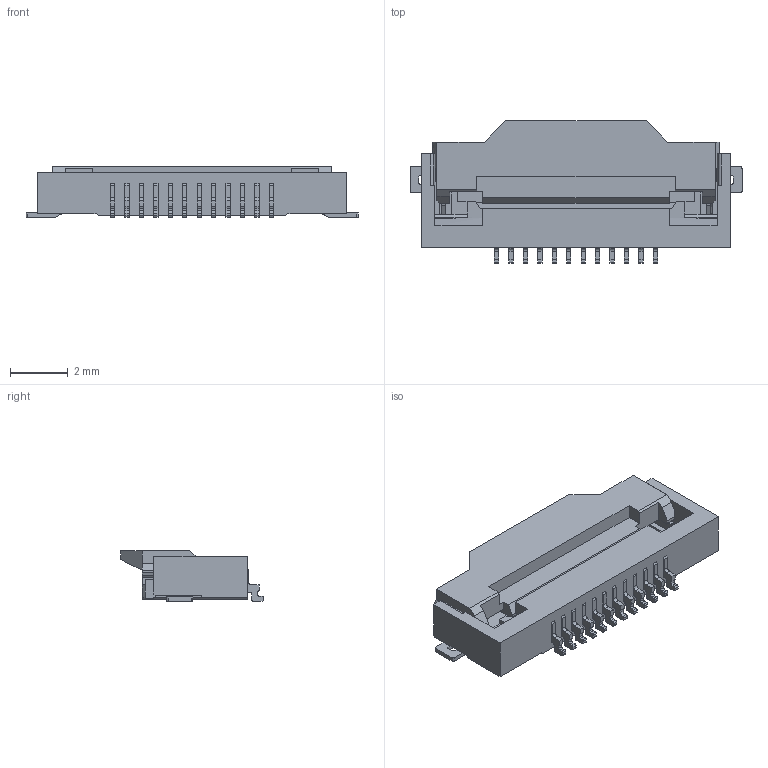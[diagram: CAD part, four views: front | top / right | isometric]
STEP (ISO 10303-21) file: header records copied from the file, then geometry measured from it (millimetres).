
FILE_DESCRIPTION (( 'STEP AP214' ), '1' );
FILE_NAME ('006806012108_607.STEP', '2023-05-18T07:23:22', ( '' ), ( '' ), 'SwSTEP 2.0', 'SolidWorks 2021', '' );
FILE_SCHEMA (( 'AUTOMOTIVE_DESIGN' ));
Length unit declared in the file: millimetre
Products named in the file (1): 006806012108_607
Bounding box: 11.5 x 4.95 x 1.75 mm (x, y, z)
Volume: 48.3 mm3; surface area: 225.1 mm2
Topology: 1 solids, 1 shells, 445 faces, 1297 edges, 856 vertices
Faces by surface type: bspline 445
Entity records: 14136 total; most frequent: CARTESIAN_POINT 6530, ORIENTED_EDGE 2594, EDGE_CURVE 1297, B_SPLINE_CURVE_WITH_KNOTS 1149, VERTEX_POINT 856, EDGE_LOOP 457, FACE_OUTER_BOUND 445, ADVANCED_FACE 445
